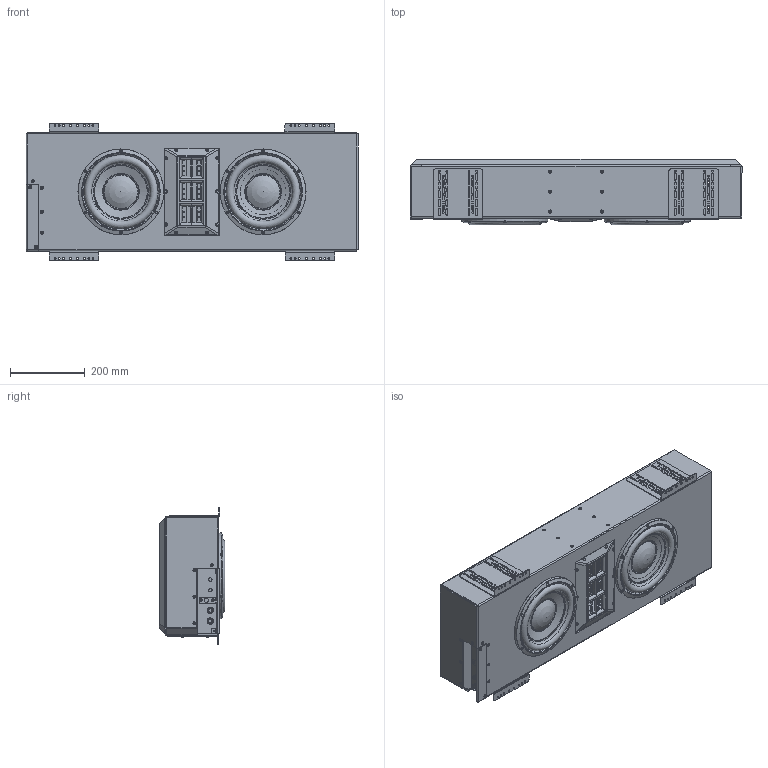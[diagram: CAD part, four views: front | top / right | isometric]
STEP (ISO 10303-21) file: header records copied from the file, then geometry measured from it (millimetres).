
FILE_DESCRIPTION (( 'STEP AP203' ), '1' );
FILE_NAME ('975330 Sage Cinema Point 3 GT.STEP', '2024-06-18T14:43:25', ( '' ), ( '' ), 'SwSTEP 2.0', 'SolidWorks 2023', '' );
FILE_SCHEMA (( 'CONFIG_CONTROL_DESIGN' ));
Products named in the file (1): 975330 Sage Cinema Point 3 GT
Bounding box: 889 x 176.05 x 369.06 mm (x, y, z)
Surface area: 1700922.1 mm2 (no closed solid volume)
Topology: 0 solids, 106 shells, 1245 faces, 4253 edges, 3040 vertices
Faces by surface type: plane 618, cylinder 474, cone 91, torus 40, sphere 13, bspline 9
Full cylindrical faces by diameter (mm): 1.778 x1, 4.089 x5, 4.115 x10, 4.166 x1, 4.496 x12, 4.5 x5, 4.775 x4, 4.826 x3, 5.105 x64, 5.832 x1, 5.944 x6, 6.413 x8, 6.414 x4, 7.417 x2, 7.5 x12, 8.382 x1, 8.484 x2, 9.449 x2, 9.474 x4, 10.541 x7, 10.617 x2, 10.973 x2, 11.176 x2, 11.989 x2, 17.018 x2, 141 x2, 230 x2
Entity records: 49615 total; most frequent: CARTESIAN_POINT 13445, DIRECTION 7659, ORIENTED_EDGE 6173, EDGE_CURVE 3916, VERTEX_POINT 2965, AXIS2_PLACEMENT_3D 2767, LINE 2125, VECTOR 2125
